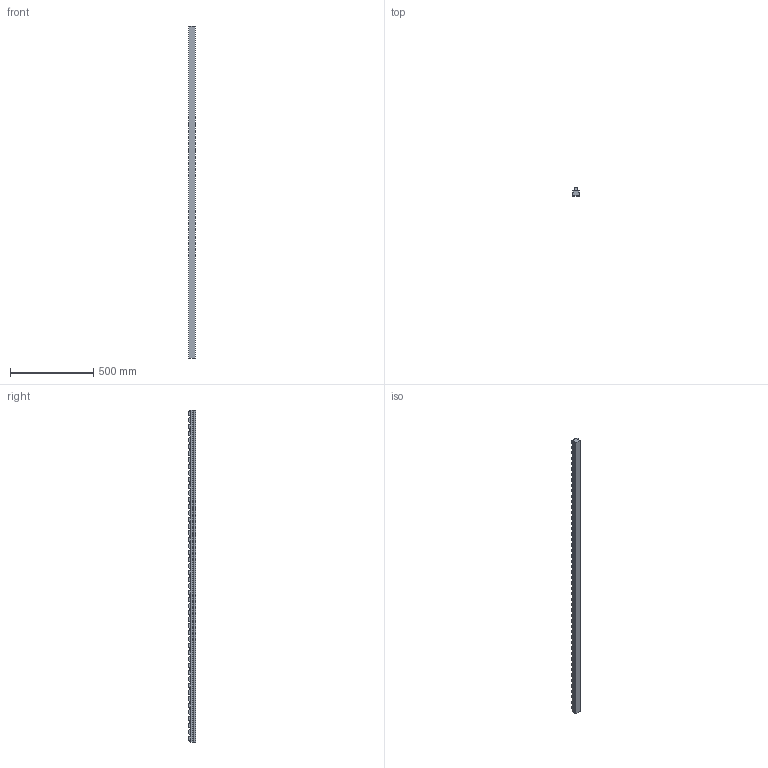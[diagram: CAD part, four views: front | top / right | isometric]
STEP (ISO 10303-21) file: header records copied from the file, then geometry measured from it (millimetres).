
FILE_DESCRIPTION (( 'STEP AP214' ), '1' );
FILE_NAME ('JB-57020A4_JB-57020D4.step', '2024-02-15T05:02:59', ( 'catia' ), ( 'HP Inc.' ), 'SwSTEP 2.0', 'SolidWorks 2021', '' );
FILE_SCHEMA (( 'AUTOMOTIVE_DESIGN' ));
Length unit declared in the file: millimetre
Products named in the file (1): JB-57020A4_JB-57020D4
Bounding box: 40 x 46 x 2000 mm (x, y, z)
Volume: 2793132.1 mm3; surface area: 380631.6 mm2
Topology: 1 solids, 1 shells, 164 faces, 336 edges, 224 vertices
Faces by surface type: plane 114, cylinder 50
Entity records: 4354 total; most frequent: DIRECTION 766, CARTESIAN_POINT 725, ORIENTED_EDGE 672, EDGE_CURVE 336, AXIS2_PLACEMENT_3D 265, VECTOR 236, LINE 236, VERTEX_POINT 224
